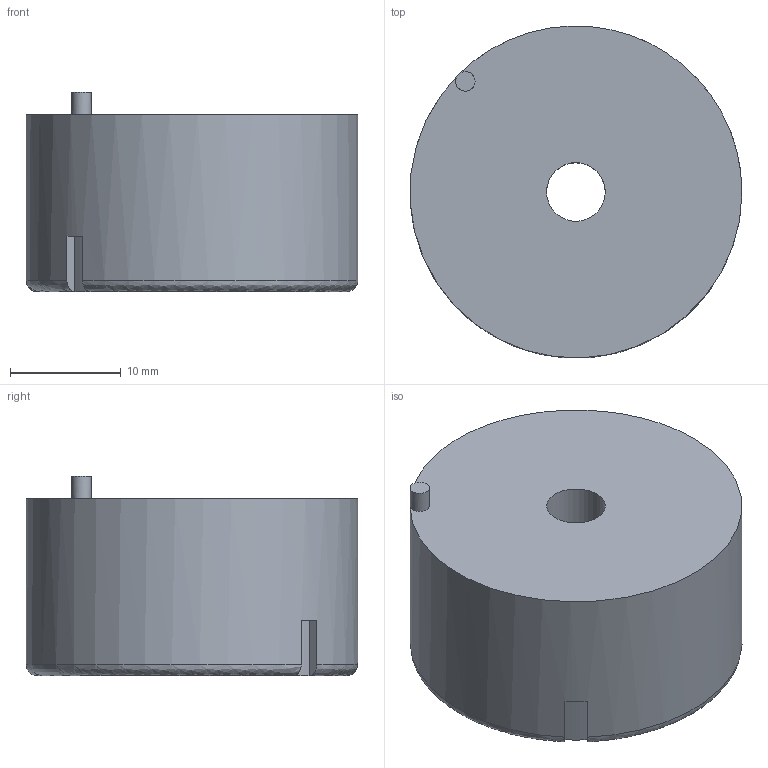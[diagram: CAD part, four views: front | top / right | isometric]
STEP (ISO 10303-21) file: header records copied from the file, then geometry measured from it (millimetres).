
FILE_DESCRIPTION(/* description */ (''),/* implementation_level */ '2;1');
FILE_NAME(/* name */ '853036_C_1-Magnetgehäuse.stp',/* time_stamp */ '2020-02-06T15:18:42+01:00',/* author */ (''),/* organization */ (''),/* preprocessor_version */ 'ST-DEVELOPER v16',/* originating_system */ 'SIEMENS PLM Software NX 11.0',/* authorisation */ '');
FILE_SCHEMA (('AP203_CONFIGURATION_CONTROLLED_3D_DESIGN_OF_MECHANICAL_PARTS_AND_ASSEMBLIES_MIM_LF { 1 0 10303 403 2 1 2}'));
Length unit declared in the file: millimetre
Products named in the file (1): hi2n4F1007E79v35
Bounding box: 29.98 x 29.98 x 18 mm (x, y, z)
Volume: 10844.2 mm3; surface area: 3116.1 mm2
Topology: 1 solids, 1 shells, 13 faces, 30 edges, 19 vertices
Faces by surface type: plane 6, cylinder 5, cone 1, bspline 1
Full cylindrical faces by diameter (mm): 1.75 x1, 5.3 x1, 10 x1, 30 x1
Entity records: 504 total; most frequent: CARTESIAN_POINT 114, DIRECTION 68, ORIENTED_EDGE 52, AXIS2_PLACEMENT_3D 31, EDGE_CURVE 26, EDGE_LOOP 20, VERTEX_POINT 20, CIRCLE 18
